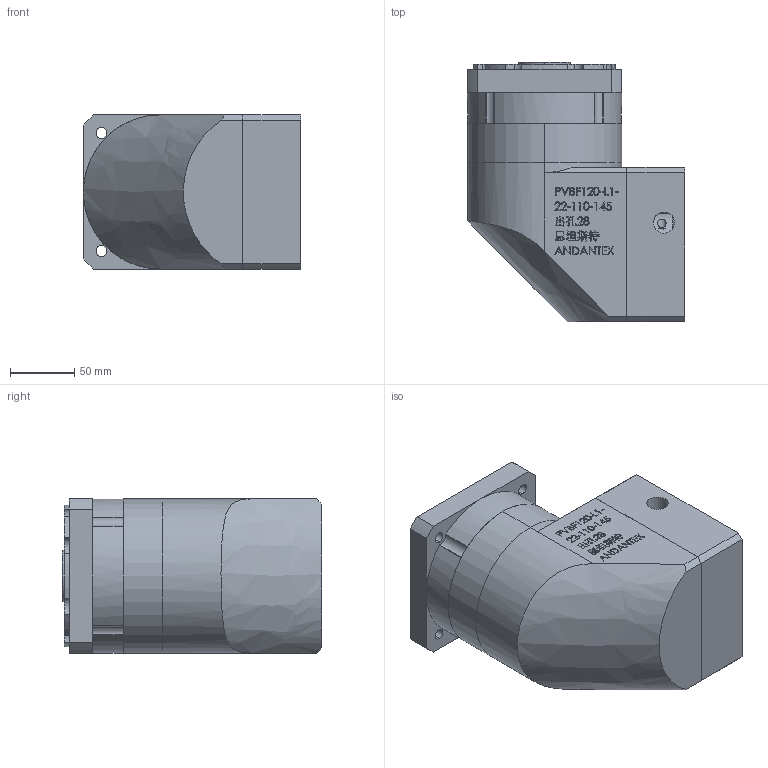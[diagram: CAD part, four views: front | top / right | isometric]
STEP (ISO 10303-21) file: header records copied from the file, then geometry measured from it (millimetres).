
FILE_DESCRIPTION (( 'STEP AP203' ), '1' );
FILE_NAME ('PVBF120-22-110-145³ö¿×28.STEP', '2024-08-10T08:20:19', ( 'Windows User' ), ( 'P R C' ), 'SwSTEP 2.0', 'SolidWorks 2016', '' );
FILE_SCHEMA (( 'CONFIG_CONTROL_DESIGN' ));
Length unit declared in the file: millimetre
Products named in the file (8): PVBF120 奻屳唳-謂怀堤-28-B8; PVBF120-蟀諉啣; PVBF120-薊粣ん-梓袧; 螺釘範本 M8x20; 粣創-3207A 35x72x27_2; PVBF120-22-110-145堤謂28; B-PVBF120-眊极; PVBF120 κｳﾝﾈｦ-ﾓﾅｻｯ_ﾒｻｼｶﾄﾚｳﾝﾈｦ
Assembly tree (7 placements, depth 2):
  PVBF120-22-110-145堤謂28
    B-PVBF120-眊极
    PVBF120 κｳﾝﾈｦ-ﾓﾅｻｯ_ﾒｻｼｶﾄﾚｳﾝﾈｦ
    PVBF120 奻屳唳-謂怀堤-28-B8
    PVBF120-蟀諉啣
    PVBF120-薊粣ん-梓袧
    螺釘範本 M8x20
    粣創-3207A 35x72x27_2
Bounding box: 169 x 202 x 120 mm (x, y, z)
Volume: 2579394.9 mm3; surface area: 306444.3 mm2
Topology: 7 solids, 15 shells, 1224 faces, 3350 edges, 2208 vertices
Faces by surface type: plane 687, bspline 297, cylinder 216, cone 24
Entity records: 51940 total; most frequent: CARTESIAN_POINT 21720, ORIENTED_EDGE 6668, DIRECTION 5192, EDGE_CURVE 3334, VERTEX_POINT 2208, VECTOR 1992, LINE 1992, AXIS2_PLACEMENT_3D 1600
